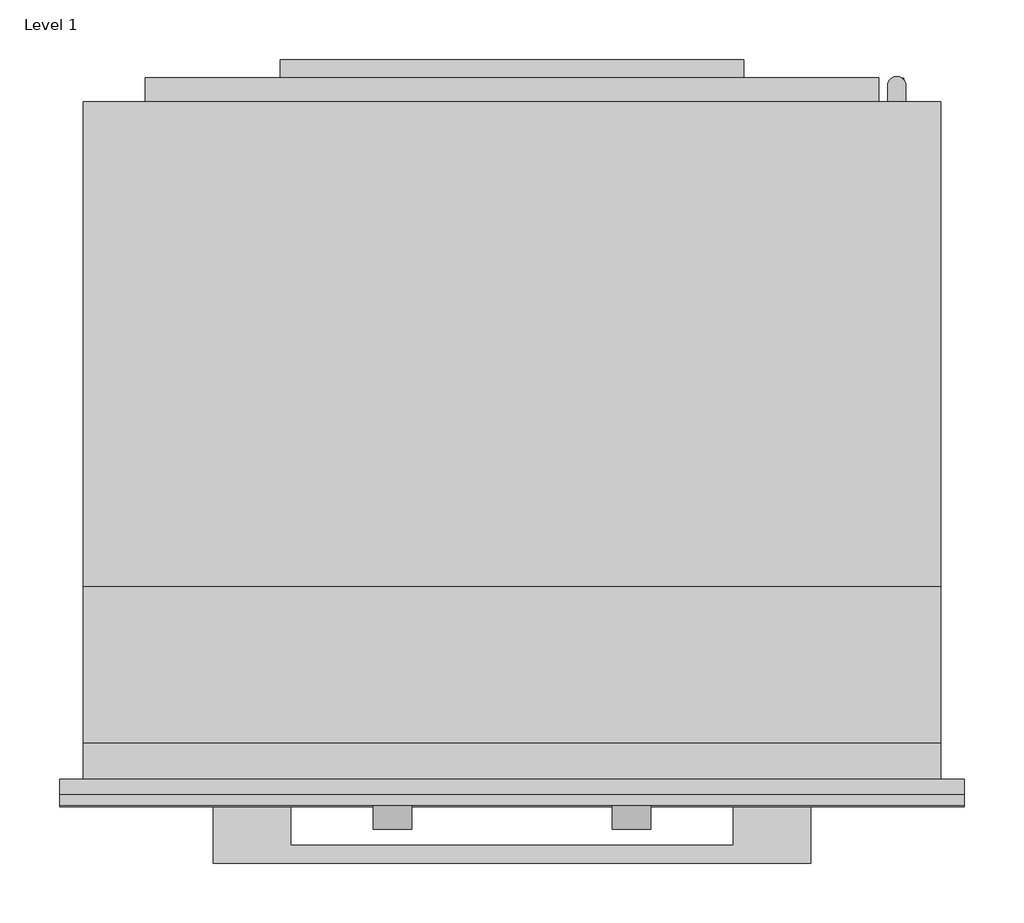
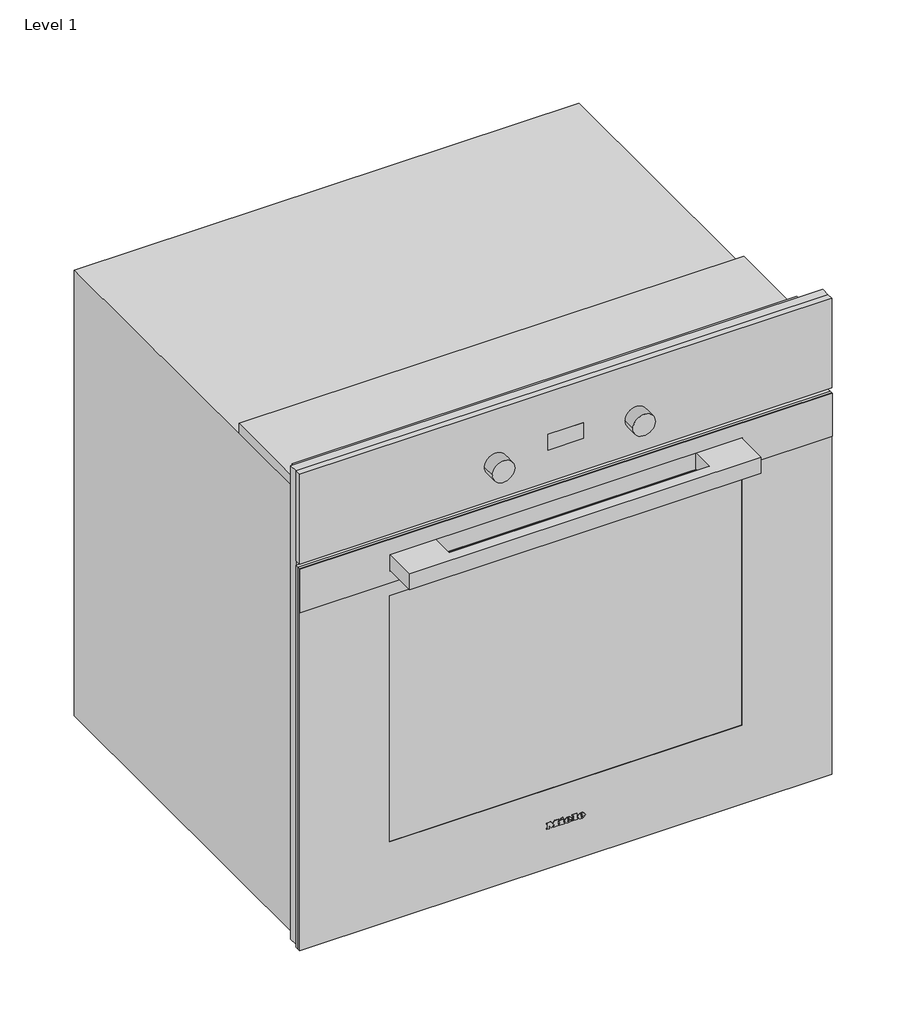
# One storey: 1 proxy.
"""IFC4 building model written with IfcOpenShell, lengths in millimetres."""

from ifc_helpers import new_model, si_unit, origin, place, context, project, spatial, transform, mapped, element, save
from components import specialty_equipment_479a0580

model = new_model("IFC4")

# Units and contexts
model_context = context("Model", 3, world=origin())
ifc_project = project(units=[si_unit("LENGTHUNIT", "METRE", prefix="MILLI")], contexts=[model_context])

# Site, building, storey
site = spatial("IfcSite", under=ifc_project)
building = spatial("IfcBuilding", under=site)
storey = spatial("IfcBuildingStorey", under=building, Name="Level 1", Elevation=0.0)

# Proxy
placement = place(None, origin())
specialty_equipment_shape = specialty_equipment_479a0580(model_context)
element("IfcBuildingElementProxy", 1, Name="11805330_USA_H2880BP_EDST-CLST : 22288045_USA_11805330_H2880BP_EDST-CLST", ObjectType="11805330_USA_H2880BP_EDST-CLST : 22288045_USA_11805330_H2880BP_EDST-CLST", at=placement, inside=storey, context=model_context, shape_type="MappedRepresentation", body=[
    mapped(specialty_equipment_shape, transform((0.0, 0.0, 0.0), x_axis=(1.0, 0.0, 0.0), y_axis=(0.0, 1.0, 0.0), z_axis=(0.0, 0.0, 1.0))),
])

save(model, "model.ifc")
